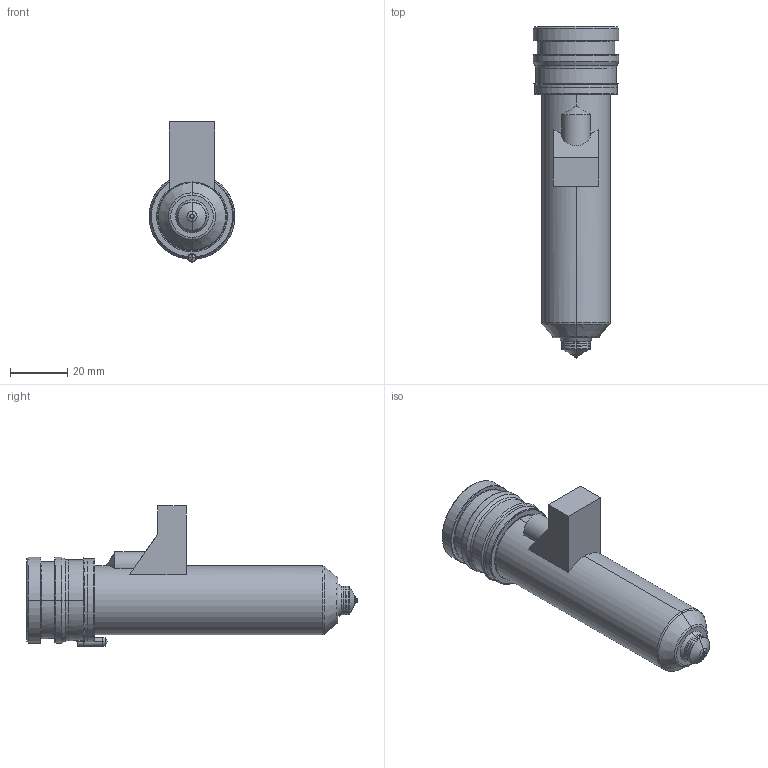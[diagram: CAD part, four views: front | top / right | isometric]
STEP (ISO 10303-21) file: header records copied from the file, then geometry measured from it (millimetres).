
FILE_DESCRIPTION((''),'2;1');
FILE_NAME('MPN-10-29-VSA10-096-M','2026-02-05T13:00:38',('UPTIO'),('Thermoplay S.p.A.'),'CREO PARAMETRIC BY PTC INC, 2023494','CREO PARAMETRIC BY PTC INC, 2023494','');
FILE_SCHEMA(('CONFIG_CONTROL_DESIGN','SHAPE_APPEARANCE_LAYERS_GROUPS'));
Length unit declared in the file: millimetre
Products named in the file (1): MPN-10-29-VSA10-096-M
Bounding box: 30 x 116 x 49 mm (x, y, z)
Volume: 37093.6 mm3; surface area: 38116.5 mm2
Topology: 3 solids, 5 shells, 546 faces, 1379 edges, 839 vertices
Faces by surface type: cylinder 181, plane 145, bspline 71, torus 69, cone 68, sphere 8, extrusion 4
Entity records: 26956 total; most frequent: CARTESIAN_POINT 11092, ORIENTED_EDGE 2744, DIRECTION 2618, EDGE_CURVE 1372, AXIS2_PLACEMENT_3D 1038, VERTEX_POINT 839, EDGE_LOOP 575, CIRCLE 566
